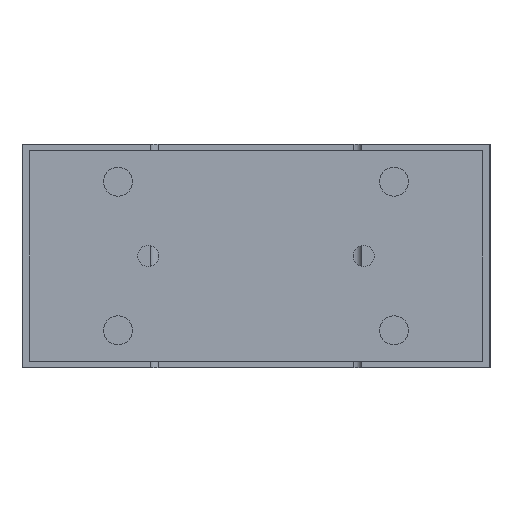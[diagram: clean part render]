
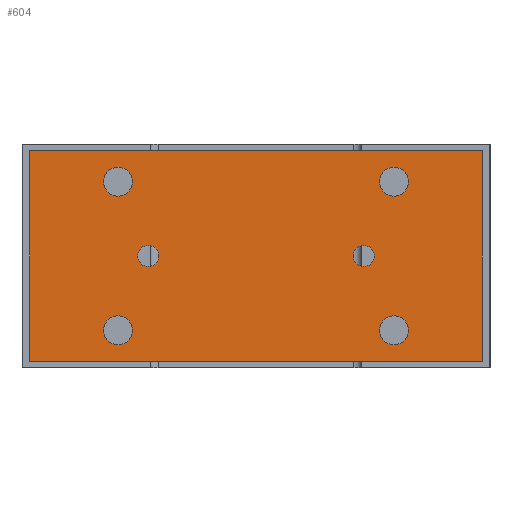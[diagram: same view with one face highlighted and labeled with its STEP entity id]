
A CAD part, left-side view. The second image highlights one B-rep face of the part: STEP entity #604.
In plain terms, the highlighted planar face has unit normal (-1, 0, 0).
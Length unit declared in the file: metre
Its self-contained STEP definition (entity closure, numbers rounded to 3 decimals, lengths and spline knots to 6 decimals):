
#604 = ADVANCED_FACE( '', ( #1357, #1358, #1359, #1360, #1361, #1362, #1363 ), #1364, .T. );
#1357 = FACE_BOUND( '', #2157, .T. );
#1358 = FACE_BOUND( '', #2158, .T. );
#1359 = FACE_BOUND( '', #2159, .T. );
#1360 = FACE_BOUND( '', #2160, .T. );
#1361 = FACE_BOUND( '', #2161, .T. );
#1362 = FACE_BOUND( '', #2162, .T. );
#1363 = FACE_OUTER_BOUND( '', #2163, .T. );
#1364 = PLANE( '', #2164 );
#2157 = EDGE_LOOP( '', ( #3601 ) );
#2158 = EDGE_LOOP( '', ( #3602 ) );
#2159 = EDGE_LOOP( '', ( #3603 ) );
#2160 = EDGE_LOOP( '', ( #3604 ) );
#2161 = EDGE_LOOP( '', ( #3605 ) );
#2162 = EDGE_LOOP( '', ( #3606 ) );
#2163 = EDGE_LOOP( '', ( #3607, #3608, #3609, #3610 ) );
#2164 = AXIS2_PLACEMENT_3D( '', #3611, #3612, #3613 );
#3601 = ORIENTED_EDGE( '', *, *, #4336, .F. );
#3602 = ORIENTED_EDGE( '', *, *, #4107, .F. );
#3603 = ORIENTED_EDGE( '', *, *, #4279, .F. );
#3604 = ORIENTED_EDGE( '', *, *, #3883, .F. );
#3605 = ORIENTED_EDGE( '', *, *, #3954, .F. );
#3606 = ORIENTED_EDGE( '', *, *, #4098, .T. );
#3607 = ORIENTED_EDGE( '', *, *, #4305, .T. );
#3608 = ORIENTED_EDGE( '', *, *, #4312, .T. );
#3609 = ORIENTED_EDGE( '', *, *, #3941, .T. );
#3610 = ORIENTED_EDGE( '', *, *, #4177, .T. );
#3611 = CARTESIAN_POINT( '', ( -0.118, -0.086, -0.0025 ) );
#3612 = DIRECTION( '', ( -1., 0., 0. ) );
#3613 = DIRECTION( '', ( 0., 0., 1. ) );
#3883 = EDGE_CURVE( '', #4505, #4505, #4506, .T. );
#3941 = EDGE_CURVE( '', #4598, #4596, #4599, .T. );
#3954 = EDGE_CURVE( '', #4619, #4619, #4620, .T. );
#4098 = EDGE_CURVE( '', #4847, #4847, #4848, .T. );
#4107 = EDGE_CURVE( '', #4861, #4861, #4862, .T. );
#4177 = EDGE_CURVE( '', #4596, #4961, #4963, .T. );
#4279 = EDGE_CURVE( '', #5102, #5102, #5103, .T. );
#4305 = EDGE_CURVE( '', #4961, #5134, #5136, .T. );
#4312 = EDGE_CURVE( '', #5134, #4598, #5142, .T. );
#4336 = EDGE_CURVE( '', #5168, #5168, #5169, .T. );
#4505 = VERTEX_POINT( '', #5380 );
#4506 = CIRCLE( '', #5381, 0.0055 );
#4596 = VERTEX_POINT( '', #5558 );
#4598 = VERTEX_POINT( '', #5561 );
#4599 = LINE( '', #5562, #5563 );
#4619 = VERTEX_POINT( '', #5584 );
#4620 = CIRCLE( '', #5585, 0.004 );
#4847 = VERTEX_POINT( '', #5966 );
#4848 = CIRCLE( '', #5967, 0.004 );
#4861 = VERTEX_POINT( '', #5984 );
#4862 = CIRCLE( '', #5985, 0.0055 );
#4961 = VERTEX_POINT( '', #6133 );
#4963 = LINE( '', #6136, #6137 );
#5102 = VERTEX_POINT( '', #6379 );
#5103 = CIRCLE( '', #6380, 0.0055 );
#5134 = VERTEX_POINT( '', #6419 );
#5136 = LINE( '', #6422, #6423 );
#5142 = LINE( '', #6429, #6430 );
#5168 = VERTEX_POINT( '', #6462 );
#5169 = CIRCLE( '', #6463, 0.0055 );
#5380 = CARTESIAN_POINT( '', ( -0.118, 0.0525, -0.00875 ) );
#5381 = AXIS2_PLACEMENT_3D( '', #6595, #6596, #6597 );
#5558 = CARTESIAN_POINT( '', ( -0.118, 0.086, -0.0825 ) );
#5561 = CARTESIAN_POINT( '', ( -0.118, 0.086, -0.0025 ) );
#5562 = CARTESIAN_POINT( '', ( -0.118, 0.086, -0.0025 ) );
#5563 = VECTOR( '', #6665, 1. );
#5584 = CARTESIAN_POINT( '', ( -0.118, -0.037, -0.0425 ) );
#5585 = AXIS2_PLACEMENT_3D( '', #6688, #6689, #6690 );
#5966 = CARTESIAN_POINT( '', ( -0.118, 0.037, -0.0425 ) );
#5967 = AXIS2_PLACEMENT_3D( '', #6875, #6876, #6877 );
#5984 = CARTESIAN_POINT( '', ( -0.118, 0.0525, -0.06525 ) );
#5985 = AXIS2_PLACEMENT_3D( '', #6882, #6883, #6884 );
#6133 = CARTESIAN_POINT( '', ( -0.118, -0.086, -0.0825 ) );
#6136 = CARTESIAN_POINT( '', ( -0.118, 0.086, -0.0825 ) );
#6137 = VECTOR( '', #6974, 1. );
#6379 = CARTESIAN_POINT( '', ( -0.118, -0.0525, -0.00875 ) );
#6380 = AXIS2_PLACEMENT_3D( '', #7066, #7067, #7068 );
#6419 = CARTESIAN_POINT( '', ( -0.118, -0.086, -0.0025 ) );
#6422 = CARTESIAN_POINT( '', ( -0.118, -0.086, -0.0825 ) );
#6423 = VECTOR( '', #7093, 1. );
#6429 = CARTESIAN_POINT( '', ( -0.118, -0.086, -0.0025 ) );
#6430 = VECTOR( '', #7094, 1. );
#6462 = CARTESIAN_POINT( '', ( -0.118, -0.0525, -0.06525 ) );
#6463 = AXIS2_PLACEMENT_3D( '', #7107, #7108, #7109 );
#6595 = CARTESIAN_POINT( '', ( -0.118, 0.0525, -0.01425 ) );
#6596 = DIRECTION( '', ( -1., 0., 0. ) );
#6597 = DIRECTION( '', ( 0., 0., 1. ) );
#6665 = DIRECTION( '', ( 0., 0., -1. ) );
#6688 = CARTESIAN_POINT( '', ( -0.118, -0.041, -0.0425 ) );
#6689 = DIRECTION( '', ( -1., 0., 0. ) );
#6690 = DIRECTION( '', ( 0., 1., 0. ) );
#6875 = CARTESIAN_POINT( '', ( -0.118, 0.041, -0.0425 ) );
#6876 = DIRECTION( '', ( 1., 0., 0. ) );
#6877 = DIRECTION( '', ( 0., -1., 0. ) );
#6882 = CARTESIAN_POINT( '', ( -0.118, 0.0525, -0.07075 ) );
#6883 = DIRECTION( '', ( -1., 0., 0. ) );
#6884 = DIRECTION( '', ( 0., 0., 1. ) );
#6974 = DIRECTION( '', ( 0., -1., 0. ) );
#7066 = CARTESIAN_POINT( '', ( -0.118, -0.0525, -0.01425 ) );
#7067 = DIRECTION( '', ( -1., 0., 0. ) );
#7068 = DIRECTION( '', ( 0., 0., 1. ) );
#7093 = DIRECTION( '', ( 0., 0., 1. ) );
#7094 = DIRECTION( '', ( 0., 1., 0. ) );
#7107 = CARTESIAN_POINT( '', ( -0.118, -0.0525, -0.07075 ) );
#7108 = DIRECTION( '', ( -1., 0., 0. ) );
#7109 = DIRECTION( '', ( 0., 0., 1. ) );
